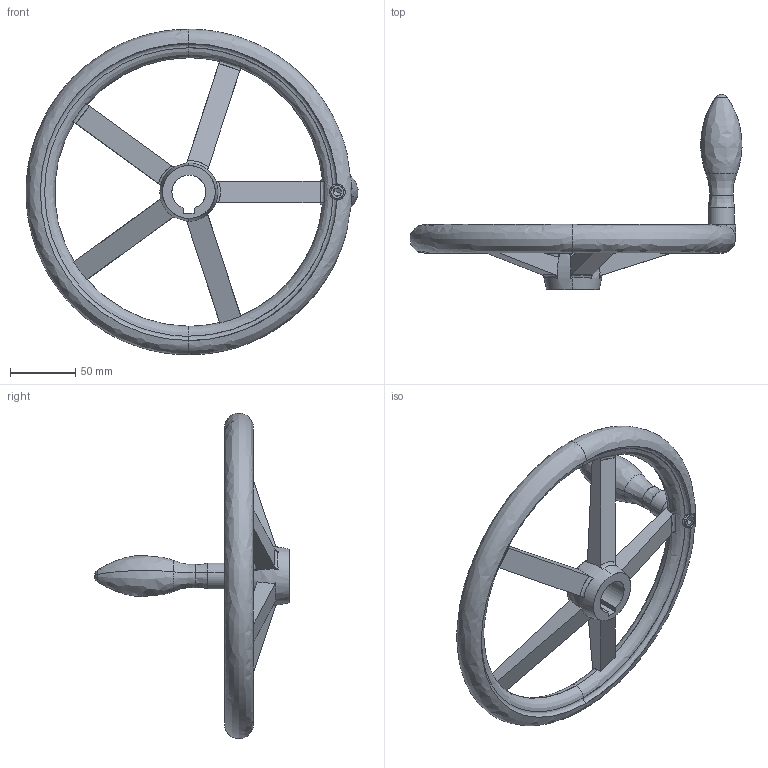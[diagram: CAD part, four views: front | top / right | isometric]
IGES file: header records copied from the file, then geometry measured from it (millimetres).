
Start section: SolidWorks IGES file using analytic representation for surfaces
Global section: file name: C:\Users\IanO\Desktop\Temp File\Process pending\77120_v2\77120_v2_20171108_IGES\77120.W0541.igs; native system: SolidWorks 2017; preprocessor: SolidWorks 2017; author: IanO; date: 171108.084934; units: millimetre
Bounding box: 254.83 x 150 x 250 mm (x, y, z)
Surface area: 89315.1 mm2 (no closed solid volume)
Topology: 0 solids, 0 shells, 137 faces, 1809 edges, 1800 vertices
Faces by surface type: bspline 76, revolution 61
